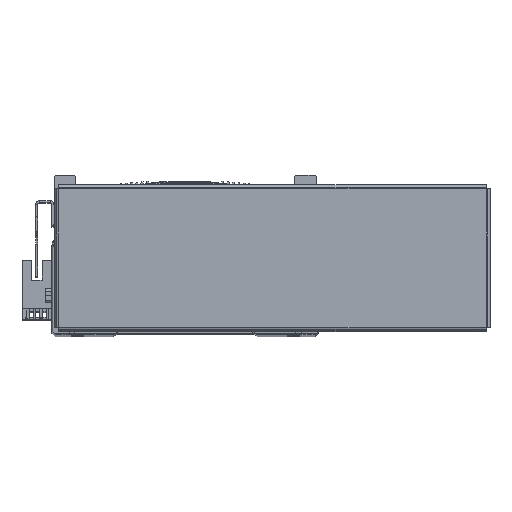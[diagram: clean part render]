
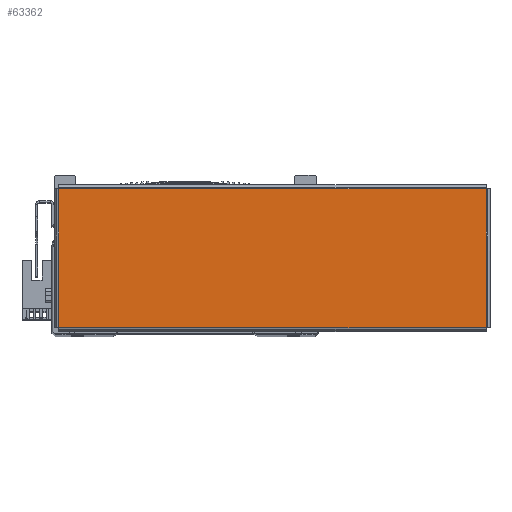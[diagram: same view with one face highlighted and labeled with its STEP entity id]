
A CAD part, top view. The second image highlights one B-rep face of the part: STEP entity #63362.
In plain terms, the highlighted planar face has unit normal (0, 0, 1) as drawn and (0, 0, -1) by its records, which use the part's own axes.
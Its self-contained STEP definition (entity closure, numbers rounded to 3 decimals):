
#3766 = CARTESIAN_POINT ( 'NONE',  ( 0., 0., -1. ) ) ;
#3788 = PLANE ( 'NONE',  #27254 ) ;
#3790 = DIRECTION ( 'NONE',  ( 1., 0., 0. ) ) ;
#3830 = DIRECTION ( 'NONE',  ( 0., 0., 1. ) ) ;
#12838 = ORIENTED_EDGE ( 'NONE', *, *, #71900, .T. ) ;
#12853 = ORIENTED_EDGE ( 'NONE', *, *, #71891, .T. ) ;
#12896 = ORIENTED_EDGE ( 'NONE', *, *, #71914, .T. ) ;
#13438 = ORIENTED_EDGE ( 'NONE', *, *, #72173, .T. ) ;
#20190 = EDGE_LOOP ( 'NONE', ( #12853, #12896, #12838, #13438 ) ) ;
#27254 = AXIS2_PLACEMENT_3D ( 'NONE', #3766, #3830, #3790 ) ;
#30250 = FACE_OUTER_BOUND ( 'NONE', #20190, .T. ) ;
#45530 = DIRECTION ( 'NONE',  ( 0., 1., 0. ) ) ;
#45531 = CARTESIAN_POINT ( 'NONE',  ( 97.863, 31.793, -1. ) ) ;
#45548 = CARTESIAN_POINT ( 'NONE',  ( 97.893, -31.763, -1. ) ) ;
#45550 = DIRECTION ( 'NONE',  ( 0., -1., 0. ) ) ;
#45558 = DIRECTION ( 'NONE',  ( -1., 0., 0. ) ) ;
#45565 = CARTESIAN_POINT ( 'NONE',  ( -97.863, -31.793, -1. ) ) ;
#45986 = LINE ( 'NONE', #45565, #46028 ) ;
#45987 = VECTOR ( 'NONE', #45558, 1000. ) ;
#46007 = VECTOR ( 'NONE', #45550, 1000. ) ;
#46009 = LINE ( 'NONE', #45548, #45987 ) ;
#46028 = VECTOR ( 'NONE', #45530, 1000. ) ;
#46035 = LINE ( 'NONE', #45531, #46007 ) ;
#46187 = LINE ( 'NONE', #48216, #46229 ) ;
#46229 = VECTOR ( 'NONE', #48135, 1000. ) ;
#48135 = DIRECTION ( 'NONE',  ( 1., 0., 0. ) ) ;
#48216 = CARTESIAN_POINT ( 'NONE',  ( -97.893, 31.763, -1. ) ) ;
#62458 = VERTEX_POINT ( 'NONE', #71472 ) ;
#62574 = VERTEX_POINT ( 'NONE', #71764 ) ;
#62584 = VERTEX_POINT ( 'NONE', #71757 ) ;
#62650 = VERTEX_POINT ( 'NONE', #71871 ) ;
#63362 = ADVANCED_FACE ( 'NONE', ( #30250 ), #3788, .F. ) ;
#71472 = CARTESIAN_POINT ( 'NONE',  ( -97.863, -31.763, -1. ) ) ;
#71757 = CARTESIAN_POINT ( 'NONE',  ( -97.863, 31.763, -1. ) ) ;
#71764 = CARTESIAN_POINT ( 'NONE',  ( 97.863, -31.763, -1. ) ) ;
#71871 = CARTESIAN_POINT ( 'NONE',  ( 97.863, 31.763, -1. ) ) ;
#71891 = EDGE_CURVE ( 'NONE', #62650, #62574, #46035, .T. ) ;
#71900 = EDGE_CURVE ( 'NONE', #62458, #62584, #45986, .T. ) ;
#71914 = EDGE_CURVE ( 'NONE', #62574, #62458, #46009, .T. ) ;
#72173 = EDGE_CURVE ( 'NONE', #62584, #62650, #46187, .T. ) ;
